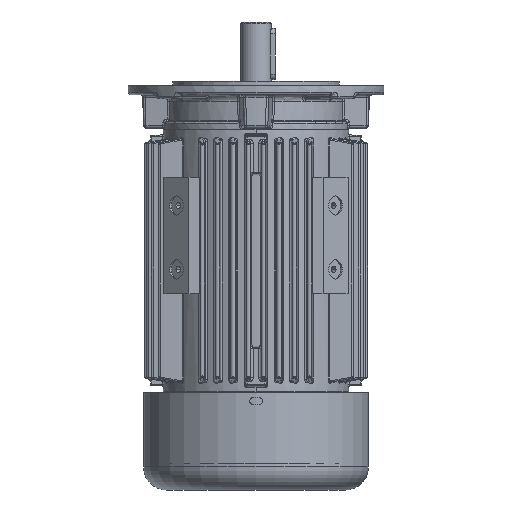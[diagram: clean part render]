
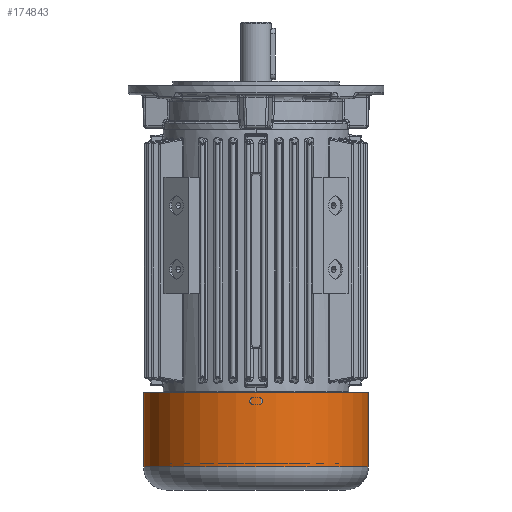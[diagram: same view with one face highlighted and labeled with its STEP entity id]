
A CAD part, front view. The second image highlights one B-rep face of the part: STEP entity #174843.
In plain terms, the highlighted cylindrical face has radius 88 mm (diameter 176 mm), a partial arc.
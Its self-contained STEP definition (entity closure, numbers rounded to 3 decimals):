
#2396 = DIRECTION ( 'NONE',  ( 0., 0., -1. ) ) ;
#3275 = EDGE_CURVE ( 'NONE', #161293, #17410, #178927, .T. ) ;
#3857 = AXIS2_PLACEMENT_3D ( 'NONE', #139014, #55715, #140781 ) ;
#12103 = AXIS2_PLACEMENT_3D ( 'NONE', #35037, #61557, #103190 ) ;
#15051 = DIRECTION ( 'NONE',  ( -1., 0., 0. ) ) ;
#17410 = VERTEX_POINT ( 'NONE', #102711 ) ;
#24887 = ORIENTED_EDGE ( 'NONE', *, *, #76801, .T. ) ;
#26396 = EDGE_CURVE ( 'NONE', #45107, #17410, #135189, .T. ) ;
#28354 = CARTESIAN_POINT ( 'NONE',  ( -88., 0., -208.308 ) ) ;
#30698 = VERTEX_POINT ( 'NONE', #138769 ) ;
#32249 = VECTOR ( 'NONE', #152604, 1000. ) ;
#35037 = CARTESIAN_POINT ( 'NONE',  ( 0., 0., -161.5 ) ) ;
#45107 = VERTEX_POINT ( 'NONE', #135721 ) ;
#48909 = CARTESIAN_POINT ( 'NONE',  ( 88., 0., -208.308 ) ) ;
#55358 = VECTOR ( 'NONE', #101453, 1000. ) ;
#55715 = DIRECTION ( 'NONE',  ( 0., 0., -1. ) ) ;
#56196 = CARTESIAN_POINT ( 'NONE',  ( -88., 0., -103.5 ) ) ;
#56981 = CYLINDRICAL_SURFACE ( 'NONE', #3857, 88. ) ;
#57815 = CARTESIAN_POINT ( 'NONE',  ( 0., 0., -103.5 ) ) ;
#61557 = DIRECTION ( 'NONE',  ( 0., 0., -1. ) ) ;
#76801 = EDGE_CURVE ( 'NONE', #30698, #161293, #111572, .T. ) ;
#82681 = ORIENTED_EDGE ( 'NONE', *, *, #26396, .F. ) ;
#101453 = DIRECTION ( 'NONE',  ( 0., 0., -1. ) ) ;
#102711 = CARTESIAN_POINT ( 'NONE',  ( -88., 0., -161.5 ) ) ;
#103190 = DIRECTION ( 'NONE',  ( -1., 0., 0. ) ) ;
#105608 = EDGE_CURVE ( 'NONE', #30698, #45107, #171780, .T. ) ;
#111572 = CIRCLE ( 'NONE', #152358, 88. ) ;
#113487 = ORIENTED_EDGE ( 'NONE', *, *, #105608, .F. ) ;
#117323 = FACE_OUTER_BOUND ( 'NONE', #147832, .T. ) ;
#135189 = CIRCLE ( 'NONE', #12103, 88. ) ;
#135721 = CARTESIAN_POINT ( 'NONE',  ( 88., 0., -161.5 ) ) ;
#138769 = CARTESIAN_POINT ( 'NONE',  ( 88., 0., -103.5 ) ) ;
#139014 = CARTESIAN_POINT ( 'NONE',  ( 0., 0., -208.308 ) ) ;
#140781 = DIRECTION ( 'NONE',  ( -1., 0., 0. ) ) ;
#147832 = EDGE_LOOP ( 'NONE', ( #113487, #24887, #152377, #82681 ) ) ;
#152358 = AXIS2_PLACEMENT_3D ( 'NONE', #57815, #2396, #15051 ) ;
#152377 = ORIENTED_EDGE ( 'NONE', *, *, #3275, .T. ) ;
#152604 = DIRECTION ( 'NONE',  ( 0., 0., -1. ) ) ;
#161293 = VERTEX_POINT ( 'NONE', #56196 ) ;
#171780 = LINE ( 'NONE', #48909, #55358 ) ;
#174843 = ADVANCED_FACE ( 'NONE', ( #117323 ), #56981, .T. ) ;
#178927 = LINE ( 'NONE', #28354, #32249 ) ;
